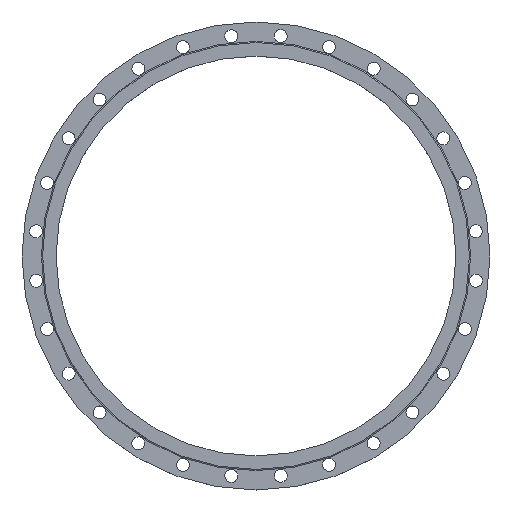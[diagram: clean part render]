
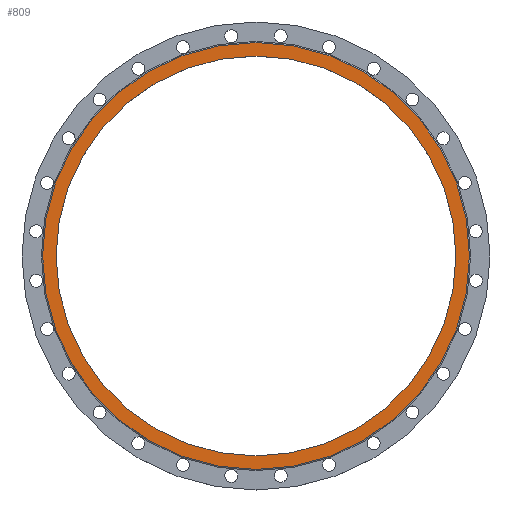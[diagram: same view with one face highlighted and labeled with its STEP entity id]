
A CAD part, top view. The second image highlights one B-rep face of the part: STEP entity #809.
In plain terms, the highlighted planar face has unit normal (0, 0, 1).
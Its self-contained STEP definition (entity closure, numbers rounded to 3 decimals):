
#139=FACE_BOUND('',#267,.T.);
#200=FACE_OUTER_BOUND('',#266,.T.);
#266=EDGE_LOOP('',(#711,#712));
#267=EDGE_LOOP('',(#713,#714));
#337=CIRCLE('',#871,545.);
#338=CIRCLE('',#872,545.);
#367=CIRCLE('',#930,510.5);
#368=CIRCLE('',#931,510.5);
#412=VERTEX_POINT('',#1275);
#413=VERTEX_POINT('',#1277);
#442=VERTEX_POINT('',#1393);
#443=VERTEX_POINT('',#1394);
#487=EDGE_CURVE('',#413,#412,#337,.T.);
#488=EDGE_CURVE('',#412,#413,#338,.T.);
#545=EDGE_CURVE('',#442,#443,#367,.T.);
#546=EDGE_CURVE('',#443,#442,#368,.T.);
#711=ORIENTED_EDGE('',*,*,#487,.T.);
#712=ORIENTED_EDGE('',*,*,#488,.T.);
#713=ORIENTED_EDGE('',*,*,#545,.T.);
#714=ORIENTED_EDGE('',*,*,#546,.T.);
#776=PLANE('',#929);
#809=ADVANCED_FACE('',(#200,#139),#776,.T.);
#871=AXIS2_PLACEMENT_3D('',#1278,#1021,#1022);
#872=AXIS2_PLACEMENT_3D('',#1279,#1023,#1024);
#929=AXIS2_PLACEMENT_3D('',#1392,#1165,#1166);
#930=AXIS2_PLACEMENT_3D('',#1395,#1167,#1168);
#931=AXIS2_PLACEMENT_3D('',#1396,#1169,#1170);
#1021=DIRECTION('center_axis',(0.,0.,1.));
#1022=DIRECTION('ref_axis',(-1.,0.,0.));
#1023=DIRECTION('center_axis',(0.,0.,1.));
#1024=DIRECTION('ref_axis',(-1.,0.,0.));
#1165=DIRECTION('center_axis',(0.,0.,1.));
#1166=DIRECTION('ref_axis',(1.,0.,0.));
#1167=DIRECTION('center_axis',(0.,0.,-1.));
#1168=DIRECTION('ref_axis',(1.,0.,0.));
#1169=DIRECTION('center_axis',(0.,0.,-1.));
#1170=DIRECTION('ref_axis',(1.,0.,0.));
#1275=CARTESIAN_POINT('',(545.,0.,0.));
#1277=CARTESIAN_POINT('',(-545.,0.,0.));
#1278=CARTESIAN_POINT('Origin',(0.,0.,0.));
#1279=CARTESIAN_POINT('Origin',(0.,0.,0.));
#1392=CARTESIAN_POINT('Origin',(-597.5,0.,0.));
#1393=CARTESIAN_POINT('',(-510.5,0.,0.));
#1394=CARTESIAN_POINT('',(510.5,0.,0.));
#1395=CARTESIAN_POINT('Origin',(0.,0.,0.));
#1396=CARTESIAN_POINT('Origin',(0.,0.,0.));
